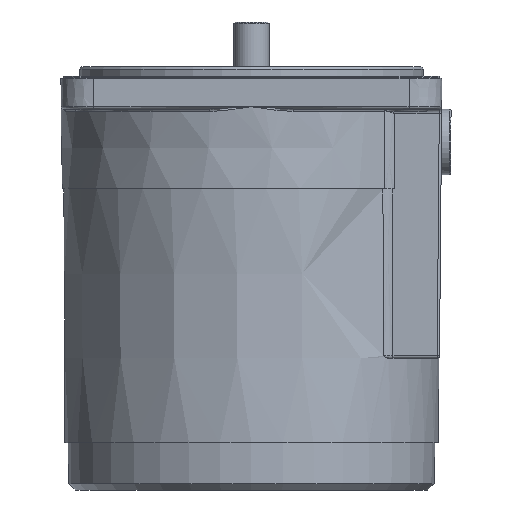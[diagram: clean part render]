
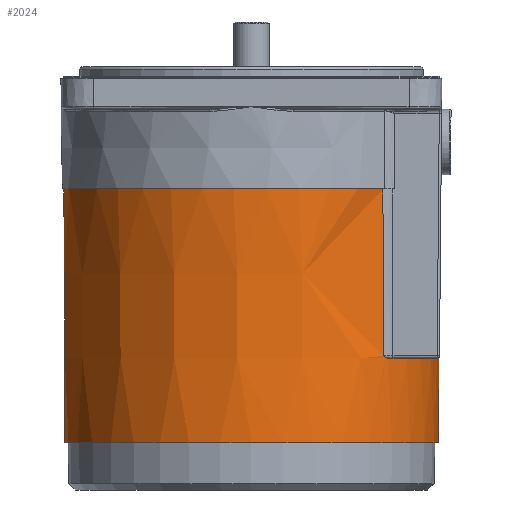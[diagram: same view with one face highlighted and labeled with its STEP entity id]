
A CAD part, left-side view. The second image highlights one B-rep face of the part: STEP entity #2024.
In plain terms, the highlighted conical face has half-angle 0.318 degrees and reference radius 40.05 mm.
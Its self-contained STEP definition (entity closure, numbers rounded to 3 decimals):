
#29 = CARTESIAN_POINT ( 'NONE',  ( -28.4, -27.988, -55.334 ) ) ;
#162 = B_SPLINE_CURVE_WITH_KNOTS ( 'NONE', 3,
 ( #1131, #3928, #1816, #1174, #4285, #787, #2246, #2969 ),
 .UNSPECIFIED., .F., .F.,
 ( 4, 2, 2, 4 ),
 ( 0., 0., 0.001, 0.002 ),
 .UNSPECIFIED. ) ;
#166 = CARTESIAN_POINT ( 'NONE',  ( 28.369, -27.99, -59.003 ) ) ;
#183 = CARTESIAN_POINT ( 'NONE',  ( -3.594, -39.698, -59.458 ) ) ;
#301 = CARTESIAN_POINT ( 'NONE',  ( 27.558, -28.786, -59.421 ) ) ;
#310 = B_SPLINE_CURVE_WITH_KNOTS ( 'NONE', 3,
 ( #3434, #3455, #2714, #976, #301, #2370, #1700, #1359 ),
 .UNSPECIFIED., .F., .F.,
 ( 4, 2, 2, 4 ),
 ( 0., 0.001, 0.001, 0.002 ),
 .UNSPECIFIED. ) ;
#351 = ORIENTED_EDGE ( 'NONE', *, *, #3959, .F. ) ;
#360 = ORIENTED_EDGE ( 'NONE', *, *, #2314, .T. ) ;
#509 = CARTESIAN_POINT ( 'NONE',  ( 28.482, -27.982, -45.499 ) ) ;
#562 = CARTESIAN_POINT ( 'NONE',  ( 0., 0., -77.5 ) ) ;
#620 = CARTESIAN_POINT ( 'NONE',  ( -1.802, -39.82, -59.378 ) ) ;
#700 = CARTESIAN_POINT ( 'NONE',  ( -28.415, -27.987, -53.5 ) ) ;
#745 = CONICAL_SURFACE ( 'NONE', #3966, 40.05, 0.006 ) ;
#787 = CARTESIAN_POINT ( 'NONE',  ( -27.974, -28.384, -59.239 ) ) ;
#874 = ORIENTED_EDGE ( 'NONE', *, *, #2715, .T. ) ;
#902 = DIRECTION ( 'NONE',  ( 1., 0., 0. ) ) ;
#906 = AXIS2_PLACEMENT_3D ( 'NONE', #3425, #2387, #1284 ) ;
#909 = AXIS2_PLACEMENT_3D ( 'NONE', #562, #1960, #4408 ) ;
#910 = AXIS2_PLACEMENT_3D ( 'NONE', #3049, #3663, #3395 ) ;
#976 = CARTESIAN_POINT ( 'NONE',  ( 27.663, -28.685, -59.381 ) ) ;
#1022 = EDGE_CURVE ( 'NONE', #1776, #1803, #1052, .T. ) ;
#1029 = EDGE_CURVE ( 'NONE', #1803, #4191, #4456, .T. ) ;
#1052 = B_SPLINE_CURVE_WITH_KNOTS ( 'NONE', 3,
 ( #1638, #1450, #29, #700, #2445, #2810, #3484, #2137, #3502, #4155 ),
 .UNSPECIFIED., .F., .F.,
 ( 4, 3, 3, 4 ),
 ( 0., 0.006, 0.03, 0.036 ),
 .UNSPECIFIED. ) ;
#1131 = CARTESIAN_POINT ( 'NONE',  ( -27.122, -29.196, -59.5 ) ) ;
#1142 = ORIENTED_EDGE ( 'NONE', *, *, #1029, .T. ) ;
#1160 = CARTESIAN_POINT ( 'NONE',  ( 28.667, -27.968, -23.5 ) ) ;
#1174 = CARTESIAN_POINT ( 'NONE',  ( -27.558, -28.786, -59.421 ) ) ;
#1181 = CARTESIAN_POINT ( 'NONE',  ( 28.616, -27.972, -29.5 ) ) ;
#1264 = DIRECTION ( 'NONE',  ( 0., 0., 1. ) ) ;
#1284 = DIRECTION ( 'NONE',  ( -1., 0., 0. ) ) ;
#1328 = CARTESIAN_POINT ( 'NONE',  ( 5.38, -39.485, -59.5 ) ) ;
#1359 = CARTESIAN_POINT ( 'NONE',  ( 27.122, -29.196, -59.5 ) ) ;
#1450 = CARTESIAN_POINT ( 'NONE',  ( -28.384, -27.989, -57.169 ) ) ;
#1485 = CARTESIAN_POINT ( 'NONE',  ( -39.75, 0., -77.5 ) ) ;
#1524 = CARTESIAN_POINT ( 'NONE',  ( 28.633, -27.971, -27.5 ) ) ;
#1562 = EDGE_CURVE ( 'NONE', #3188, #1776, #162, .T. ) ;
#1609 = FACE_OUTER_BOUND ( 'NONE', #2205, .T. ) ;
#1638 = CARTESIAN_POINT ( 'NONE',  ( -28.369, -27.99, -59.003 ) ) ;
#1700 = CARTESIAN_POINT ( 'NONE',  ( 27.234, -29.092, -59.5 ) ) ;
#1766 = VERTEX_POINT ( 'NONE', #4491 ) ;
#1776 = VERTEX_POINT ( 'NONE', #2874 ) ;
#1803 = VERTEX_POINT ( 'NONE', #2973 ) ;
#1816 = CARTESIAN_POINT ( 'NONE',  ( -27.343, -28.99, -59.481 ) ) ;
#1861 = CIRCLE ( 'NONE', #910, 39.85 ) ;
#1960 = DIRECTION ( 'NONE',  ( 0., 0., -1. ) ) ;
#1989 = CARTESIAN_POINT ( 'NONE',  ( 1.797, -39.82, -59.378 ) ) ;
#2018 = ORIENTED_EDGE ( 'NONE', *, *, #3108, .T. ) ;
#2024 = ADVANCED_FACE ( 'NONE', ( #3039, #1609 ), #745, .T. ) ;
#2137 = CARTESIAN_POINT ( 'NONE',  ( -28.633, -27.971, -27.501 ) ) ;
#2205 = EDGE_LOOP ( 'NONE', ( #1142, #3450, #2018, #360, #3187, #874, #2642, #3902 ) ) ;
#2246 = CARTESIAN_POINT ( 'NONE',  ( -28.173, -28.187, -59.12 ) ) ;
#2314 = EDGE_CURVE ( 'NONE', #3271, #4148, #3469, .T. ) ;
#2370 = CARTESIAN_POINT ( 'NONE',  ( 27.343, -28.99, -59.481 ) ) ;
#2387 = DIRECTION ( 'NONE',  ( 0., 0., -1. ) ) ;
#2419 = DIRECTION ( 'NONE',  ( 0., 0., -1. ) ) ;
#2424 = EDGE_CURVE ( 'NONE', #4148, #4083, #4416, .T. ) ;
#2445 = CARTESIAN_POINT ( 'NONE',  ( -28.482, -27.982, -45.5 ) ) ;
#2472 = CARTESIAN_POINT ( 'NONE',  ( -5.38, -39.485, -59.5 ) ) ;
#2510 = DIRECTION ( 'NONE',  ( -1., 0., 0. ) ) ;
#2642 = ORIENTED_EDGE ( 'NONE', *, *, #1562, .T. ) ;
#2714 = CARTESIAN_POINT ( 'NONE',  ( 27.974, -28.384, -59.239 ) ) ;
#2715 = EDGE_CURVE ( 'NONE', #4083, #3188, #1861, .T. ) ;
#2727 = CARTESIAN_POINT ( 'NONE',  ( 4.487, -39.607, -59.5 ) ) ;
#2810 = CARTESIAN_POINT ( 'NONE',  ( -28.549, -27.977, -37.501 ) ) ;
#2834 = B_SPLINE_CURVE_WITH_KNOTS ( 'NONE', 3,
 ( #1160, #4357, #1524, #1181, #4291, #509, #4312, #3976, #4334, #166 ),
 .UNSPECIFIED., .F., .F.,
 ( 4, 3, 3, 4 ),
 ( 0., 0.006, 0.03, 0.036 ),
 .UNSPECIFIED. ) ;
#2874 = CARTESIAN_POINT ( 'NONE',  ( -28.369, -27.99, -59.003 ) ) ;
#2969 = CARTESIAN_POINT ( 'NONE',  ( -28.369, -27.99, -59.003 ) ) ;
#2973 = CARTESIAN_POINT ( 'NONE',  ( -28.667, -27.968, -23.5 ) ) ;
#2986 = CARTESIAN_POINT ( 'NONE',  ( -4.488, -39.607, -59.5 ) ) ;
#2994 = EDGE_CURVE ( 'NONE', #4191, #1766, #2834, .T. ) ;
#3014 = CARTESIAN_POINT ( 'NONE',  ( 0., 0., -23.5 ) ) ;
#3039 = FACE_BOUND ( 'NONE', #3145, .T. ) ;
#3049 = CARTESIAN_POINT ( 'NONE',  ( 0., 0., -59.5 ) ) ;
#3108 = EDGE_CURVE ( 'NONE', #1766, #3271, #310, .T. ) ;
#3145 = EDGE_LOOP ( 'NONE', ( #351 ) ) ;
#3151 = CARTESIAN_POINT ( 'NONE',  ( -27.122, -29.196, -59.5 ) ) ;
#3154 = CARTESIAN_POINT ( 'NONE',  ( 0., 0., -23.5 ) ) ;
#3175 = CIRCLE ( 'NONE', #909, 39.75 ) ;
#3187 = ORIENTED_EDGE ( 'NONE', *, *, #2424, .T. ) ;
#3188 = VERTEX_POINT ( 'NONE', #3151 ) ;
#3208 = CARTESIAN_POINT ( 'NONE',  ( 28.667, -27.968, -23.5 ) ) ;
#3240 = VERTEX_POINT ( 'NONE', #1485 ) ;
#3271 = VERTEX_POINT ( 'NONE', #3929 ) ;
#3284 = CARTESIAN_POINT ( 'NONE',  ( 5.38, -39.485, -59.5 ) ) ;
#3303 = AXIS2_PLACEMENT_3D ( 'NONE', #3154, #2419, #2510 ) ;
#3333 = CARTESIAN_POINT ( 'NONE',  ( 3.591, -39.698, -59.458 ) ) ;
#3375 = CARTESIAN_POINT ( 'NONE',  ( -0.905, -39.851, -59.341 ) ) ;
#3395 = DIRECTION ( 'NONE',  ( -1., 0., 0. ) ) ;
#3425 = CARTESIAN_POINT ( 'NONE',  ( 0., 0., -59.5 ) ) ;
#3434 = CARTESIAN_POINT ( 'NONE',  ( 28.369, -27.99, -59.003 ) ) ;
#3450 = ORIENTED_EDGE ( 'NONE', *, *, #2994, .T. ) ;
#3455 = CARTESIAN_POINT ( 'NONE',  ( 28.173, -28.188, -59.121 ) ) ;
#3469 = CIRCLE ( 'NONE', #906, 39.85 ) ;
#3484 = CARTESIAN_POINT ( 'NONE',  ( -28.616, -27.972, -29.501 ) ) ;
#3502 = CARTESIAN_POINT ( 'NONE',  ( -28.65, -27.969, -25.5 ) ) ;
#3663 = DIRECTION ( 'NONE',  ( 0., 0., -1. ) ) ;
#3902 = ORIENTED_EDGE ( 'NONE', *, *, #1022, .T. ) ;
#3928 = CARTESIAN_POINT ( 'NONE',  ( -27.234, -29.092, -59.5 ) ) ;
#3929 = CARTESIAN_POINT ( 'NONE',  ( 27.122, -29.196, -59.5 ) ) ;
#3959 = EDGE_CURVE ( 'NONE', #3240, #3240, #3175, .T. ) ;
#3966 = AXIS2_PLACEMENT_3D ( 'NONE', #3014, #1264, #902 ) ;
#3976 = CARTESIAN_POINT ( 'NONE',  ( 28.4, -27.988, -55.334 ) ) ;
#4057 = CARTESIAN_POINT ( 'NONE',  ( 0.896, -39.851, -59.341 ) ) ;
#4083 = VERTEX_POINT ( 'NONE', #2472 ) ;
#4148 = VERTEX_POINT ( 'NONE', #3284 ) ;
#4155 = CARTESIAN_POINT ( 'NONE',  ( -28.667, -27.968, -23.5 ) ) ;
#4191 = VERTEX_POINT ( 'NONE', #3208 ) ;
#4285 = CARTESIAN_POINT ( 'NONE',  ( -27.663, -28.685, -59.381 ) ) ;
#4291 = CARTESIAN_POINT ( 'NONE',  ( 28.549, -27.977, -37.5 ) ) ;
#4312 = CARTESIAN_POINT ( 'NONE',  ( 28.415, -27.987, -53.499 ) ) ;
#4334 = CARTESIAN_POINT ( 'NONE',  ( 28.384, -27.989, -57.168 ) ) ;
#4357 = CARTESIAN_POINT ( 'NONE',  ( 28.65, -27.969, -25.5 ) ) ;
#4367 = CARTESIAN_POINT ( 'NONE',  ( -5.38, -39.485, -59.5 ) ) ;
#4408 = DIRECTION ( 'NONE',  ( -1., 0., 0. ) ) ;
#4416 = B_SPLINE_CURVE_WITH_KNOTS ( 'NONE', 3,
 ( #1328, #2727, #3333, #1989, #4057, #3375, #620, #183, #2986, #4367 ),
 .UNSPECIFIED., .F., .F.,
 ( 4, 2, 2, 2, 4 ),
 ( 0., 0.003, 0.005, 0.008, 0.011 ),
 .UNSPECIFIED. ) ;
#4456 = CIRCLE ( 'NONE', #3303, 40.05 ) ;
#4491 = CARTESIAN_POINT ( 'NONE',  ( 28.369, -27.99, -59.003 ) ) ;
